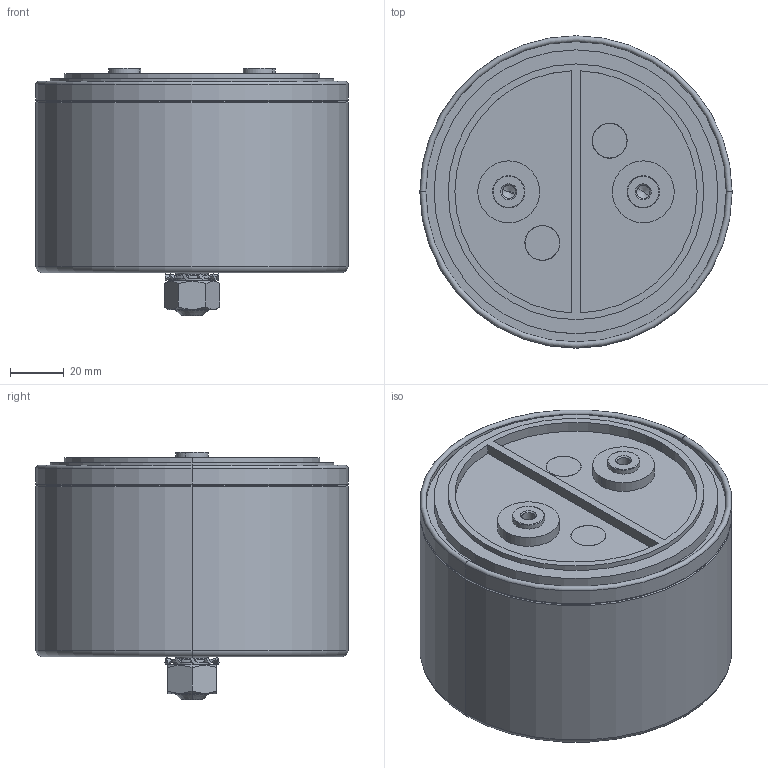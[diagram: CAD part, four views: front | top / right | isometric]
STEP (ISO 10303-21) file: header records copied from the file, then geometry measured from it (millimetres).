
FILE_DESCRIPTION (( 'STEP AP203' ), '1' );
FILE_NAME ('B25620Bx_116x70_76.STEP', '2021-07-01T03:39:13', ( '' ), ( '' ), 'SwSTEP 2.0', 'SolidWorks 2017', '' );
FILE_SCHEMA (( 'CONFIG_CONTROL_DESIGN' ));
Length unit declared in the file: millimetre
Products named in the file (1): B25620Bx_116x70_76
Bounding box: 116 x 116 x 92 mm (x, y, z)
Volume: 101746.4 mm3; surface area: 103679.7 mm2
Topology: 2 solids, 15 shells, 283 faces, 620 edges, 392 vertices
Faces by surface type: plane 113, cylinder 80, bspline 50, cone 22, torus 18
Entity records: 8809 total; most frequent: CARTESIAN_POINT 2696, ORIENTED_EDGE 1232, DIRECTION 1210, EDGE_CURVE 616, AXIS2_PLACEMENT_3D 456, VERTEX_POINT 392, EDGE_LOOP 314, LINE 298
